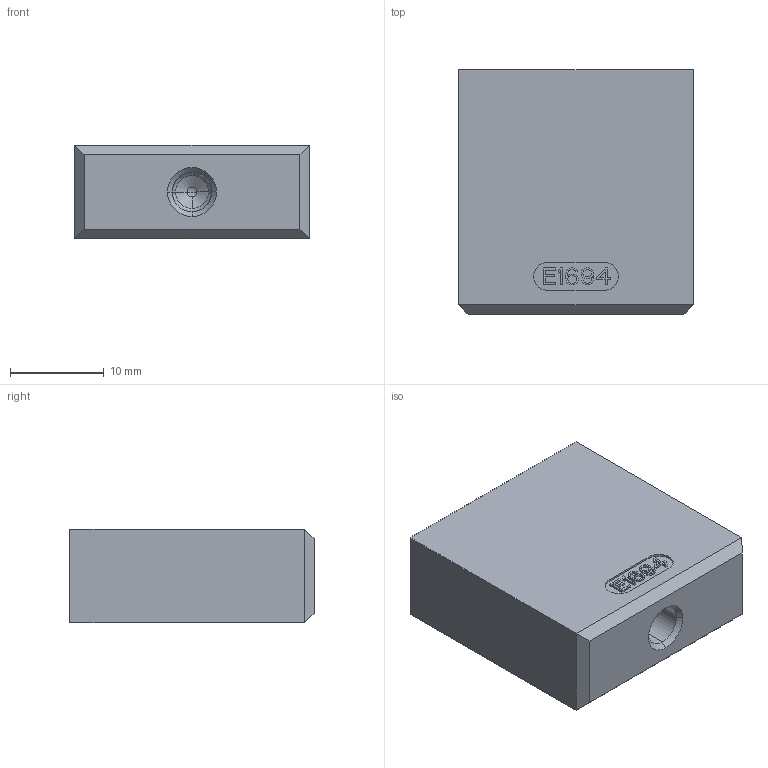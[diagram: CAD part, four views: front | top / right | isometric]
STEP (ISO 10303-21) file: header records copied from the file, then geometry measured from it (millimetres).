
FILE_DESCRIPTION (( 'STEP AP214' ), '1' );
FILE_NAME ('E 1694_25.STEP', '2016-11-07T07:56:01', ( '' ), ( '' ), 'SwSTEP 2.0', 'SolidWorks 2015', '' );
FILE_SCHEMA (( 'AUTOMOTIVE_DESIGN' ));
Length unit declared in the file: millimetre
Products named in the file (1): E 1694_25
Bounding box: 25 x 26 x 10 mm (x, y, z)
Volume: 5958.4 mm3; surface area: 2846.2 mm2
Topology: 4 solids, 4 shells, 247 faces, 653 edges, 422 vertices
Faces by surface type: plane 197, bspline 29, cylinder 12, cone 9
Entity records: 9474 total; most frequent: CARTESIAN_POINT 3458, ORIENTED_EDGE 1294, DIRECTION 1107, EDGE_CURVE 647, LINE 555, VECTOR 555, VERTEX_POINT 422, AXIS2_PLACEMENT_3D 276
